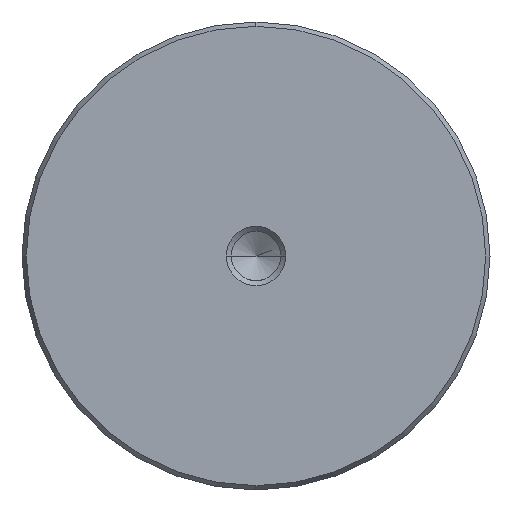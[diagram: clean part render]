
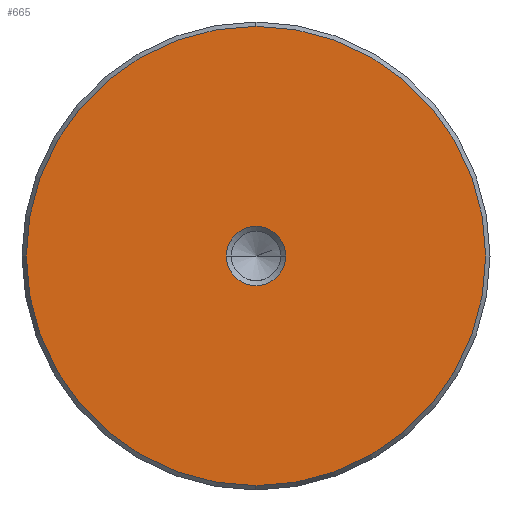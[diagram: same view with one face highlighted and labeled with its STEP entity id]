
A CAD part, left-side view. The second image highlights one B-rep face of the part: STEP entity #665.
In plain terms, the highlighted planar face has unit normal (-1, 0, 0).
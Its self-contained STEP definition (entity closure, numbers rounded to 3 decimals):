
#579=CARTESIAN_POINT('Vertex',(0.,0.,-30.923)) ;
#582=CARTESIAN_POINT('Axis2P3D Location',(0.,0.,0.)) ;
#586=CARTESIAN_POINT('Vertex',(0.,30.923,0.)) ;
#589=CARTESIAN_POINT('Axis2P3D Location',(0.,0.,0.)) ;
#593=CARTESIAN_POINT('Vertex',(0.,0.,30.923)) ;
#615=CARTESIAN_POINT('Axis2P3D Location',(0.,0.,0.)) ;
#619=CARTESIAN_POINT('Vertex',(0.,-30.923,0.)) ;
#622=CARTESIAN_POINT('Axis2P3D Location',(0.,0.,0.)) ;
#636=CARTESIAN_POINT('Axis2P3D Location',(0.,0.,0.)) ;
#647=CARTESIAN_POINT('Axis2P3D Location',(0.,0.,0.)) ;
#651=CARTESIAN_POINT('Vertex',(0.,4.,0.)) ;
#653=CARTESIAN_POINT('Vertex',(0.,-4.,0.)) ;
#656=CARTESIAN_POINT('Axis2P3D Location',(0.,0.,0.)) ;
#583=DIRECTION('Axis2P3D Direction',(1.,0.,-0.)) ;
#590=DIRECTION('Axis2P3D Direction',(1.,0.,-0.)) ;
#616=DIRECTION('Axis2P3D Direction',(1.,0.,-0.)) ;
#623=DIRECTION('Axis2P3D Direction',(1.,0.,-0.)) ;
#637=DIRECTION('Axis2P3D Direction',(1.,0.,-0.)) ;
#638=DIRECTION('Axis2P3D XDirection',(-0.,0.,-1.)) ;
#648=DIRECTION('Axis2P3D Direction',(1.,0.,-0.)) ;
#657=DIRECTION('Axis2P3D Direction',(1.,0.,-0.)) ;
#584=AXIS2_PLACEMENT_3D('Circle Axis2P3D',#582,#583,$) ;
#591=AXIS2_PLACEMENT_3D('Circle Axis2P3D',#589,#590,$) ;
#617=AXIS2_PLACEMENT_3D('Circle Axis2P3D',#615,#616,$) ;
#624=AXIS2_PLACEMENT_3D('Circle Axis2P3D',#622,#623,$) ;
#639=AXIS2_PLACEMENT_3D('Plane Axis2P3D',#636,#637,#638) ;
#649=AXIS2_PLACEMENT_3D('Circle Axis2P3D',#647,#648,$) ;
#658=AXIS2_PLACEMENT_3D('Circle Axis2P3D',#656,#657,$) ;
#642=ORIENTED_EDGE('',*,*,#588,.F.) ;
#643=ORIENTED_EDGE('',*,*,#626,.F.) ;
#644=ORIENTED_EDGE('',*,*,#621,.F.) ;
#645=ORIENTED_EDGE('',*,*,#595,.F.) ;
#662=ORIENTED_EDGE('',*,*,#655,.T.) ;
#663=ORIENTED_EDGE('',*,*,#660,.T.) ;
#664=FACE_BOUND('',#661,.T.) ;
#665=ADVANCED_FACE('720-63x500',(#646,#664),#640,.F.) ;
#585=CIRCLE('generated circle',#584,30.923) ;
#592=CIRCLE('generated circle',#591,30.923) ;
#618=CIRCLE('generated circle',#617,30.923) ;
#625=CIRCLE('generated circle',#624,30.923) ;
#650=CIRCLE('generated circle',#649,4.) ;
#659=CIRCLE('generated circle',#658,4.) ;
#588=EDGE_CURVE('',#580,#587,#585,.T.) ;
#595=EDGE_CURVE('',#587,#594,#592,.T.) ;
#621=EDGE_CURVE('',#594,#620,#618,.T.) ;
#626=EDGE_CURVE('',#620,#580,#625,.T.) ;
#655=EDGE_CURVE('',#652,#654,#650,.T.) ;
#660=EDGE_CURVE('',#654,#652,#659,.T.) ;
#641=EDGE_LOOP('',(#642,#643,#644,#645)) ;
#661=EDGE_LOOP('',(#662,#663)) ;
#646=FACE_OUTER_BOUND('',#641,.T.) ;
#640=PLANE('Plane',#639) ;
#580=VERTEX_POINT('',#579) ;
#587=VERTEX_POINT('',#586) ;
#594=VERTEX_POINT('',#593) ;
#620=VERTEX_POINT('',#619) ;
#652=VERTEX_POINT('',#651) ;
#654=VERTEX_POINT('',#653) ;
